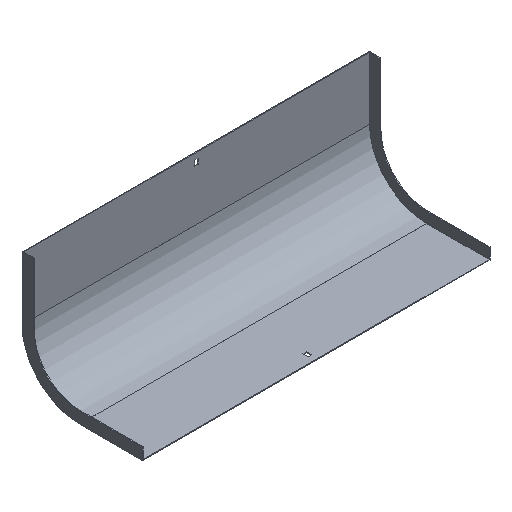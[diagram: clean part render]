
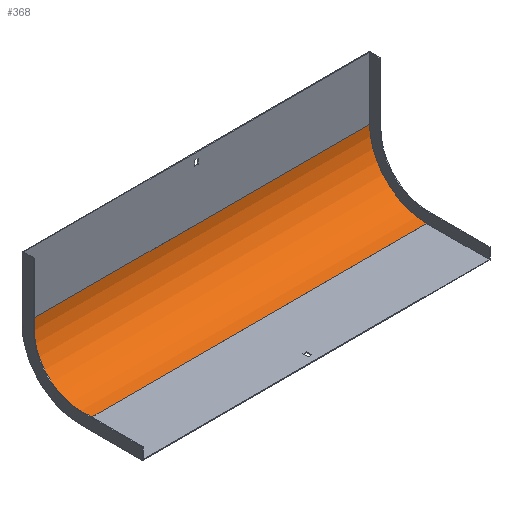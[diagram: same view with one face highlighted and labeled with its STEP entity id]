
A CAD part, isometric view. The second image highlights one B-rep face of the part: STEP entity #368.
In plain terms, the highlighted cylindrical face has radius 100 mm (diameter 200 mm), a partial arc.
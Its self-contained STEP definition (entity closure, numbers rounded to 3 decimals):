
#6 = AXIS2_PLACEMENT_3D ( 'NONE', #662, #606, #64 ) ;
#16 = EDGE_CURVE ( 'NONE', #626, #217, #643, .T. ) ;
#20 = DIRECTION ( 'NONE',  ( 0., 0., 1. ) ) ;
#48 = DIRECTION ( 'NONE',  ( -1., 0., 0. ) ) ;
#58 = CIRCLE ( 'NONE', #431, 100. ) ;
#64 = DIRECTION ( 'NONE',  ( 0., 0., 1. ) ) ;
#65 = DIRECTION ( 'NONE',  ( -1., 0., 0. ) ) ;
#72 = DIRECTION ( 'NONE',  ( 0., 0., 1. ) ) ;
#115 = VECTOR ( 'NONE', #48, 1000. ) ;
#122 = VERTEX_POINT ( 'NONE', #287 ) ;
#136 = ORIENTED_EDGE ( 'NONE', *, *, #497, .T. ) ;
#158 = ORIENTED_EDGE ( 'NONE', *, *, #16, .T. ) ;
#197 = ORIENTED_EDGE ( 'NONE', *, *, #541, .F. ) ;
#217 = VERTEX_POINT ( 'NONE', #421 ) ;
#249 = CARTESIAN_POINT ( 'NONE',  ( -302., -1.5, -109. ) ) ;
#287 = CARTESIAN_POINT ( 'NONE',  ( -302., -101.5, -209. ) ) ;
#334 = AXIS2_PLACEMENT_3D ( 'NONE', #671, #545, #72 ) ;
#357 = CARTESIAN_POINT ( 'NONE',  ( -302., -101.5, -109. ) ) ;
#368 = ADVANCED_FACE ( 'NONE', ( #542 ), #800, .F. ) ;
#406 = CARTESIAN_POINT ( 'NONE',  ( 303.5, -1.5, -109. ) ) ;
#421 = CARTESIAN_POINT ( 'NONE',  ( 302., -1.5, -109. ) ) ;
#431 = AXIS2_PLACEMENT_3D ( 'NONE', #357, #617, #20 ) ;
#478 = LINE ( 'NONE', #406, #773 ) ;
#497 = EDGE_CURVE ( 'NONE', #217, #713, #478, .T. ) ;
#514 = CARTESIAN_POINT ( 'NONE',  ( 303.5, -101.5, -209. ) ) ;
#527 = EDGE_LOOP ( 'NONE', ( #197, #732, #158, #136 ) ) ;
#541 = EDGE_CURVE ( 'NONE', #122, #713, #58, .T. ) ;
#542 = FACE_OUTER_BOUND ( 'NONE', #527, .T. ) ;
#545 = DIRECTION ( 'NONE',  ( -1., 0., 0. ) ) ;
#606 = DIRECTION ( 'NONE',  ( 1., 0., 0. ) ) ;
#617 = DIRECTION ( 'NONE',  ( 1., 0., 0. ) ) ;
#626 = VERTEX_POINT ( 'NONE', #738 ) ;
#643 = CIRCLE ( 'NONE', #6, 100. ) ;
#662 = CARTESIAN_POINT ( 'NONE',  ( 302., -101.5, -109. ) ) ;
#671 = CARTESIAN_POINT ( 'NONE',  ( 303.5, -101.5, -109. ) ) ;
#713 = VERTEX_POINT ( 'NONE', #249 ) ;
#715 = LINE ( 'NONE', #514, #115 ) ;
#732 = ORIENTED_EDGE ( 'NONE', *, *, #785, .F. ) ;
#738 = CARTESIAN_POINT ( 'NONE',  ( 302., -101.5, -209. ) ) ;
#773 = VECTOR ( 'NONE', #65, 1000. ) ;
#785 = EDGE_CURVE ( 'NONE', #626, #122, #715, .T. ) ;
#800 = CYLINDRICAL_SURFACE ( 'NONE', #334, 100. ) ;
